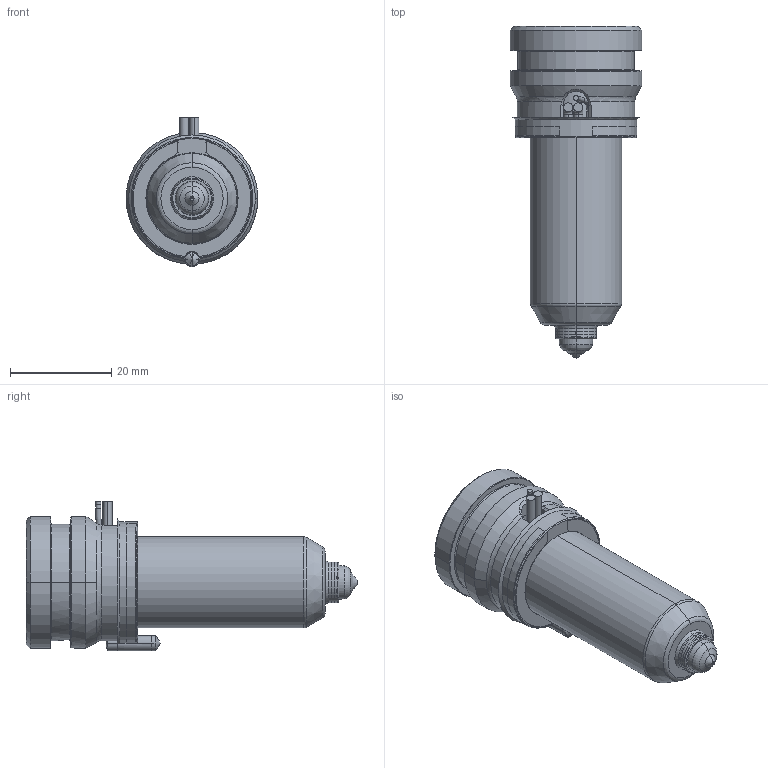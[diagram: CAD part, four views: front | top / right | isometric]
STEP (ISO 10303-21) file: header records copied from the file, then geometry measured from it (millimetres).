
FILE_DESCRIPTION((''),'2;1');
FILE_NAME('TH18047_5-A-1B15-PK-JG','2023-12-14T',('umhib'),('Thermoplay S.p.A.'),'PRO/ENGINEER BY PARAMETRIC TECHNOLOGY CORPORATION, 2017170','PRO/ENGINEER BY PARAMETRIC TECHNOLOGY CORPORATION, 2017170','');
FILE_SCHEMA(('CONFIG_CONTROL_DESIGN'));
Length unit declared in the file: millimetre
Products named in the file (1): TH18047_5-A-1B15-PK-JG
Bounding box: 26 x 65.5 x 29.5 mm (x, y, z)
Volume: 15090.9 mm3; surface area: 11028.1 mm2
Topology: 1 solids, 2 shells, 398 faces, 1036 edges, 643 vertices
Faces by surface type: cylinder 151, plane 85, cone 68, torus 56, bspline 24, sphere 12, extrusion 2
Entity records: 18090 total; most frequent: CARTESIAN_POINT 6122, ORIENTED_EDGE 2048, DIRECTION 2033, EDGE_CURVE 1026, AXIS2_PLACEMENT_3D 816, VERTEX_POINT 643, CIRCLE 443, EDGE_LOOP 418
